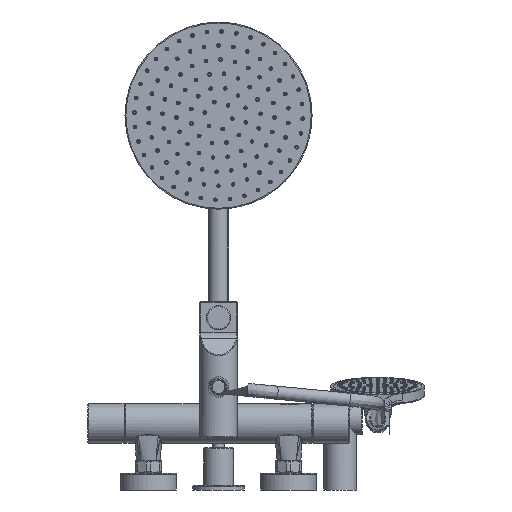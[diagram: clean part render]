
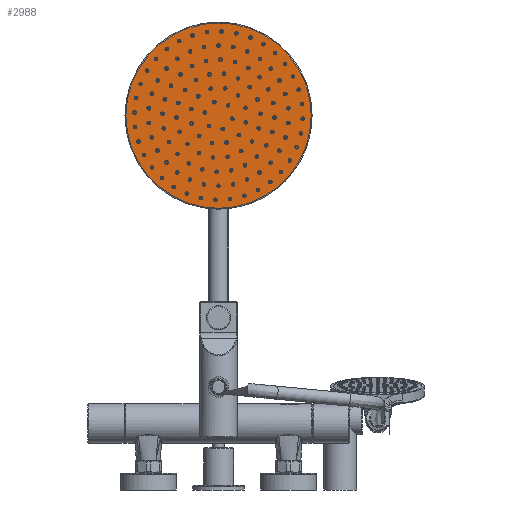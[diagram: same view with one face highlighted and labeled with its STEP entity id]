
A CAD part, front view. The second image highlights one B-rep face of the part: STEP entity #2988.
In plain terms, the highlighted planar face has unit normal (0, -1, 0).
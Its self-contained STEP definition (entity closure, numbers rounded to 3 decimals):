
#2988=ADVANCED_FACE('',(#16742),#16744,.T.);
#16742=FACE_BOUND('',#16743,.T.);
#16743=EDGE_LOOP('',(#29231));
#16744=PLANE('',#16745);
#16745=AXIS2_PLACEMENT_3D('',#16746,#16747,#16748);
#16746=CARTESIAN_POINT('',(0.,1016.,0.));
#16747=DIRECTION('',(0.,-1.,0.));
#16748=DIRECTION('',(0.,0.,1.));
#29231=ORIENTED_EDGE('',*,*,#32895,.T.);
#32895=EDGE_CURVE('',#34965,#34965,#34966,.T.);
#34965=VERTEX_POINT('',#44402);
#34966=CIRCLE('',#44403,99.);
#44402=CARTESIAN_POINT('',(0.,1016.,499.));
#44403=AXIS2_PLACEMENT_3D('',#44404,#44405,#44406);
#44404=CARTESIAN_POINT('',(0.,1016.,400.));
#44405=DIRECTION('',(0.,-1.,0.));
#44406=DIRECTION('',(0.,0.,1.));
